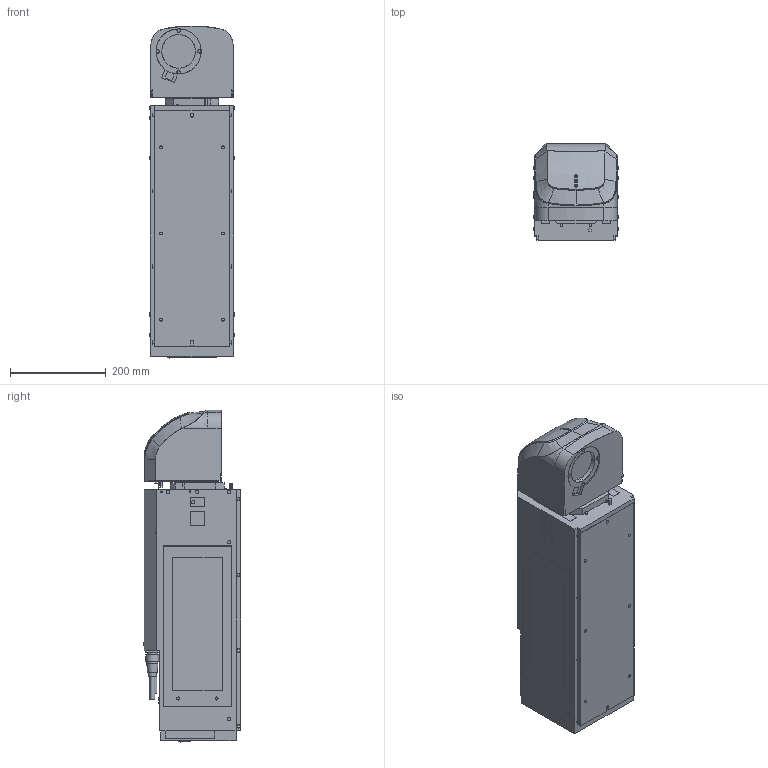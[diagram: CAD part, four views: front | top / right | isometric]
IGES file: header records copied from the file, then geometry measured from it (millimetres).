
Start section: SolidWorks IGES file using analytic representation for surfaces
Global section: file name: C:\catalog\lp-rh300sh_igs.IGS; native system: SolidWorks 2022; preprocessor: SolidWorks 2022; author: E219273; date: 230728.153633; units: millimetre
Bounding box: 178.8 x 203.9 x 693 mm (x, y, z)
Surface area: 598314.8 mm2 (no closed solid volume)
Topology: 0 solids, 0 shells, 548 faces, 7129 edges, 7129 vertices
Faces by surface type: bspline 376, revolution 172
